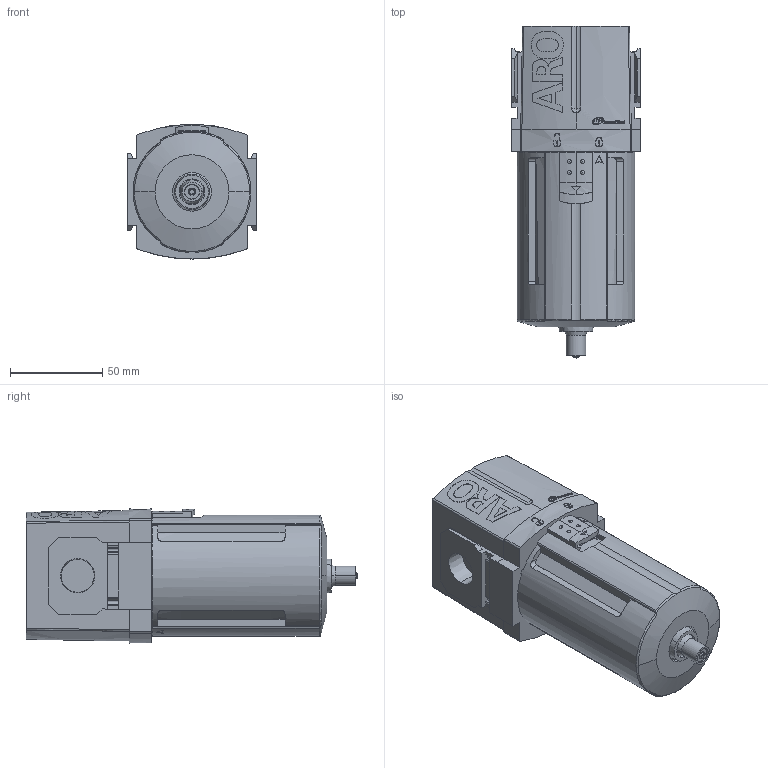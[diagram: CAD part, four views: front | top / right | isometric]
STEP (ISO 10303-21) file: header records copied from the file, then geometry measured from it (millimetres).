
FILE_DESCRIPTION(/* description */ (''),/* implementation_level */ '2;1');
FILE_NAME(/* name */ 'F353XX-X0X_01',/* time_stamp */ '2009-02-04T14:07:03-05:00',/* author */ (''),/* organization */ (''),/* preprocessor_version */ 'ST-DEVELOPER v9',/* originating_system */ 'UGS - NX 4.0',/* authorisation */ '');
FILE_SCHEMA (('AUTOMOTIVE_DESIGN { 1 0 10303 214 1 1 1 1 }'));
Length unit declared in the file: inch
Products named in the file (1): szee0781jja8
Bounding box: 70 x 180.11 x 72.79 mm (x, y, z)
Volume: 554462.1 mm3; surface area: 85653.9 mm2
Topology: 1 solids, 1 shells, 921 faces, 2494 edges, 1650 vertices
Faces by surface type: plane 657, cylinder 104, extrusion 81, cone 56, sphere 8, bspline 8, torus 7
Full cylindrical faces by diameter (mm): 3.3 x1
Entity records: 39959 total; most frequent: CARTESIAN_POINT 10401, ORIENTED_EDGE 4962, DIRECTION 4485, EDGE_CURVE 2481, VECTOR 1779, LINE 1698, VERTEX_POINT 1648, AXIS2_PLACEMENT_3D 1353
